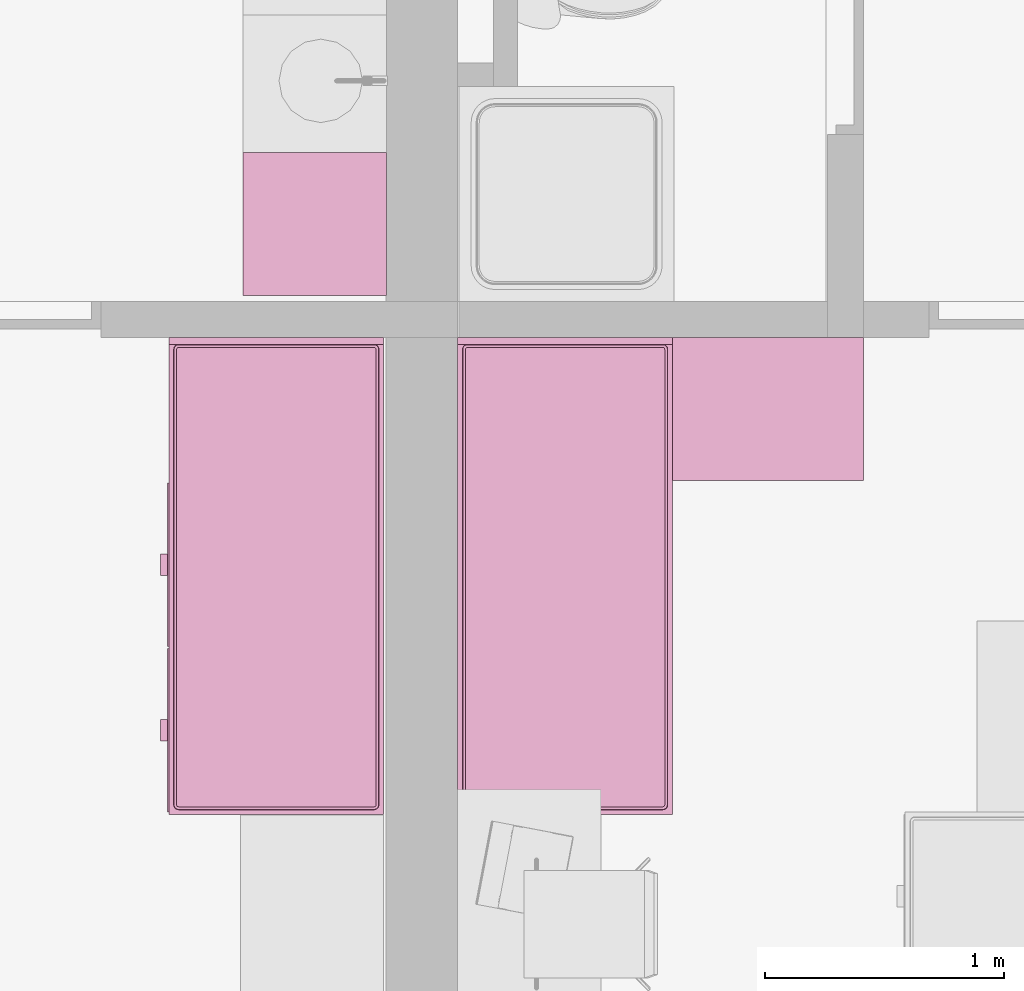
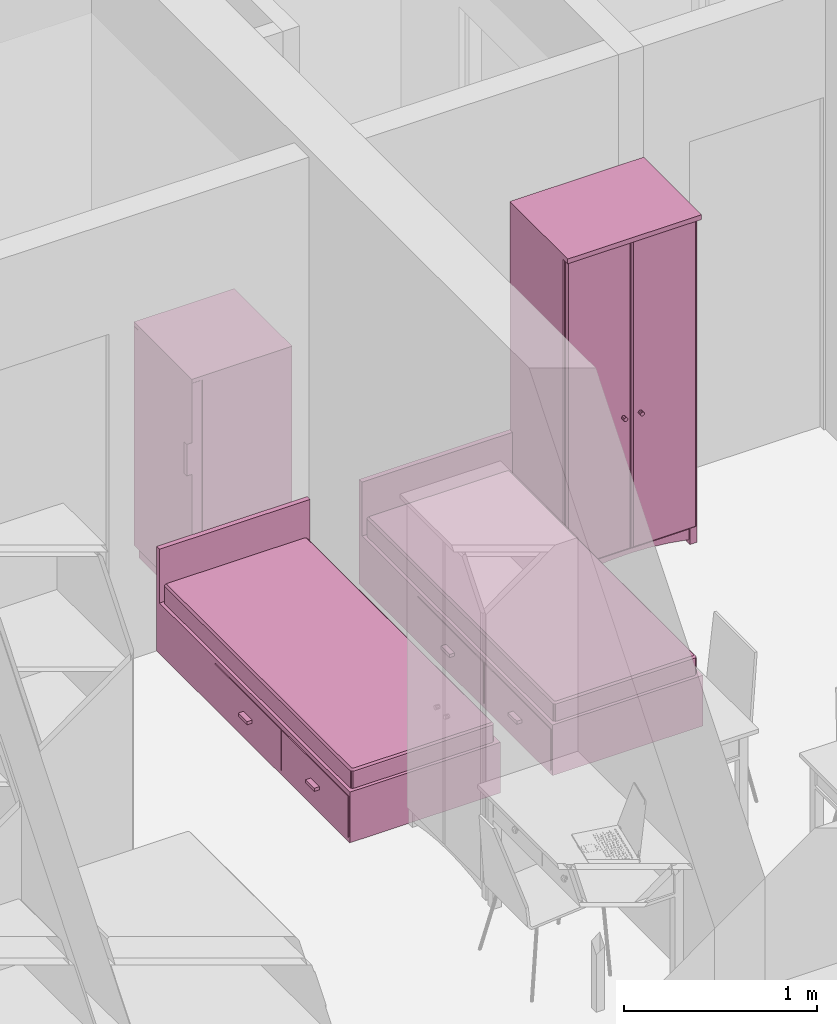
# One storey, part 118 of 165: 4 furnishings.
"""IFC2X3 building model written with IfcOpenShell, lengths in millimetres."""

from ifc_helpers import new_model, entity, si_unit, converted_unit, money_unit, direction, frame, origin_with_axes, place, context, subcontext, project, spatial, open_shell, faceted_brep, surface_model, source, transform, mapped, material, material_list, type_object, element, save


model = new_model("IFC2X3")

# Units and contexts
model_context = context("Model", 3, precision=1e-05, world=origin_with_axes(), true_north=direction((0.0, 1.0)))
body_context = subcontext(model_context, "Body", "Model", "MODEL_VIEW")
ifc_project = project(units=[si_unit("LENGTHUNIT", "METRE", prefix="MILLI"), si_unit("AREAUNIT", "SQUARE_METRE"), si_unit("VOLUMEUNIT", "CUBIC_METRE"), converted_unit("PLANEANGLEUNIT", "DEGREE", entity("IfcPlaneAngleMeasure", 0.0174532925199), si_unit("PLANEANGLEUNIT", "RADIAN"), dimensions=[0, 0, 0, 0, 0, 0, 0]), si_unit("SOLIDANGLEUNIT", "STERADIAN"), money_unit("USD"), converted_unit("TIMEUNIT", "Year", entity("IfcTimeMeasure", 31556926.0), si_unit("TIMEUNIT", "SECOND"), dimensions=[0, 0, 0, 0, 0, 0, 0]), si_unit("MASSUNIT", "GRAM"), si_unit("THERMODYNAMICTEMPERATUREUNIT", "DEGREE_CELSIUS"), si_unit("LUMINOUSINTENSITYUNIT", "LUMEN")], contexts=[model_context])

# Site, building, storey
site_placement = place(None, origin_with_axes())
site = spatial("IfcSite", under=ifc_project, at=site_placement, Name="Site", CompositionType="ELEMENT")
building_placement = place(site_placement, origin_with_axes())
building = spatial("IfcBuilding", under=site, at=building_placement, Name="Building", CompositionType="ELEMENT")
storey_placement = place(building_placement, frame((0.0, 0.0, 6300.0), z_axis=(0.0, 0.0, 1.0), x_axis=(1.0, 0.0, 0.0)))
storey = spatial("IfcBuildingStorey", under=building, at=storey_placement, Name="4KORRUS", CompositionType="ELEMENT", Elevation=6300.0)

# Furnishings
ifc_material = material(Name="Background")
ifc_material_list = material_list([ifc_material])
furnishing_element_type_1 = type_object("IfcFurnishingElementType", Name="Cupboard 19")
shared_shape_1 = source(origin_with_axes(), body_context, "Body", "Brep", [
    faceted_brep([(-780.0, 600.0, 120.0), (-780.0, 580.0, 120.0), (-780.0, 580.0, 2050.0), (-780.0, 600.0, 2050.0), (-20.0, 600.0, 120.0), (-20.0, 580.0, 120.0), (-20.0, 580.0, 2050.0), (-20.0, 600.0, 2050.0)], [[[0, 1, 2, 3]], [[0, 4, 5, 1]], [[1, 5, 6, 2]], [[3, 2, 6, 7]], [[4, 0, 3, 7]], [[5, 4, 7, 6]]]),
    faceted_brep([(0.0, 50.0, 100.0), (-20.0, 50.0, 100.0), (-20.0, 600.0, 100.0), (0.0, 600.0, 100.0), (0.0, 50.0, 2070.0), (-20.0, 50.0, 2070.0), (-20.0, 600.0, 2070.0), (0.0, 600.0, 2070.0)], [[[0, 1, 2, 3]], [[1, 0, 4, 5]], [[2, 1, 5, 6]], [[3, 2, 6, 7]], [[0, 3, 7, 4]], [[5, 4, 7, 6]]]),
    faceted_brep([(-780.0, 50.0, 100.0), (-800.0, 50.0, 100.0), (-800.0, 600.0, 100.0), (-780.0, 600.0, 100.0), (-780.0, 50.0, 2070.0), (-800.0, 50.0, 2070.0), (-800.0, 600.0, 2070.0), (-780.0, 600.0, 2070.0)], [[[0, 1, 2, 3]], [[1, 0, 4, 5]], [[2, 1, 5, 6]], [[3, 2, 6, 7]], [[0, 3, 7, 4]], [[5, 4, 7, 6]]]),
    faceted_brep([(-20.0, 50.0, 100.0), (-780.0, 50.0, 100.0), (-780.0, 600.0, 100.0), (-20.0, 600.0, 100.0), (-20.0, 50.0, 120.0), (-780.0, 50.0, 120.0), (-780.0, 600.0, 120.0), (-20.0, 600.0, 120.0)], [[[0, 1, 2, 3]], [[1, 0, 4, 5]], [[2, 1, 5, 6]], [[3, 2, 6, 7]], [[0, 3, 7, 4]], [[5, 4, 7, 6]]]),
    faceted_brep([(-20.0, 50.0, 2050.0), (-780.0, 50.0, 2050.0), (-780.0, 600.0, 2050.0), (-20.0, 600.0, 2050.0), (-20.0, 50.0, 2070.0), (-780.0, 50.0, 2070.0), (-780.0, 600.0, 2070.0), (-20.0, 600.0, 2070.0)], [[[0, 1, 2, 3]], [[1, 0, 4, 5]], [[2, 1, 5, 6]], [[3, 2, 6, 7]], [[0, 3, 7, 4]], [[5, 4, 7, 6]]]),
    faceted_brep([(0.0, 600.0, 2070.0), (0.0, 600.0, 2100.0), (0.0, 0.0, 2100.0), (0.0, 0.0, 2070.0), (-800.0, 600.0, 2070.0), (-800.0, 600.0, 2100.0), (-800.0, 0.0, 2100.0), (-800.0, 0.0, 2070.0)], [[[0, 1, 2, 3]], [[4, 5, 1, 0]], [[1, 5, 6, 2]], [[3, 2, 6, 7]], [[0, 3, 7, 4]], [[7, 6, 5, 4]]]),
    faceted_brep([(-760.0, 590.0, 25.0), (-640.962, 590.0, 45.8), (-640.962, 570.0, 45.8), (-760.0, 570.0, 25.0), (-760.0, 590.0, 100.0), (-40.0, 590.0, 100.0), (-40.0, 590.0, 25.0), (-159.038, 590.0, 45.8), (-279.23, 590.0, 58.32), (-400.0, 590.0, 62.5), (-520.77, 590.0, 58.32), (-520.77, 570.0, 58.32), (-400.0, 570.0, 62.5), (-279.23, 570.0, 58.32), (-159.038, 570.0, 45.8), (-40.0, 570.0, 25.0), (-40.0, 570.0, 100.0), (-760.0, 570.0, 100.0)], [[[0, 1, 2, 3]], [[0, 4, 5, 6, 7, 8, 9, 10, 1]], [[1, 10, 11, 2]], [[3, 2, 11, 12, 13, 14, 15, 16, 17]], [[4, 0, 3, 17]], [[5, 4, 17, 16]], [[6, 5, 16, 15]], [[7, 6, 15, 14]], [[8, 7, 14, 13]], [[9, 8, 13, 12]], [[10, 9, 12, 11]]]),
    faceted_brep([(-760.0, 80.0, 25.0), (-640.962, 80.0, 45.8), (-640.962, 60.0, 45.8), (-760.0, 60.0, 25.0), (-760.0, 80.0, 100.0), (-40.0, 80.0, 100.0), (-40.0, 80.0, 25.0), (-159.038, 80.0, 45.8), (-279.23, 80.0, 58.32), (-400.0, 80.0, 62.5), (-520.77, 80.0, 58.32), (-520.77, 60.0, 58.32), (-400.0, 60.0, 62.5), (-279.23, 60.0, 58.32), (-159.038, 60.0, 45.8), (-40.0, 60.0, 25.0), (-40.0, 60.0, 100.0), (-760.0, 60.0, 100.0)], [[[0, 1, 2, 3]], [[0, 4, 5, 6, 7, 8, 9, 10, 1]], [[1, 10, 11, 2]], [[3, 2, 11, 12, 13, 14, 15, 16, 17]], [[4, 0, 3, 17]], [[5, 4, 17, 16]], [[6, 5, 16, 15]], [[7, 6, 15, 14]], [[8, 7, 14, 13]], [[9, 8, 13, 12]], [[10, 9, 12, 11]]]),
    faceted_brep([(-790.0, 90.0, 25.0), (-790.0, 141.266, 38.072), (-770.0, 141.266, 38.072), (-770.0, 90.0, 25.0), (-790.0, 90.0, 100.0), (-790.0, 560.0, 100.0), (-790.0, 560.0, 25.0), (-790.0, 508.734, 38.072), (-790.0, 456.752, 47.92), (-790.0, 404.257, 54.508), (-790.0, 351.453, 57.808), (-790.0, 298.547, 57.808), (-790.0, 245.743, 54.508), (-790.0, 193.248, 47.92), (-770.0, 193.248, 47.92), (-770.0, 245.743, 54.508), (-770.0, 298.547, 57.808), (-770.0, 351.453, 57.808), (-770.0, 404.257, 54.508), (-770.0, 456.752, 47.92), (-770.0, 508.734, 38.072), (-770.0, 560.0, 25.0), (-770.0, 560.0, 100.0), (-770.0, 90.0, 100.0)], [[[0, 1, 2, 3]], [[0, 4, 5, 6, 7, 8, 9, 10, 11, 12, 13, 1]], [[1, 13, 14, 2]], [[3, 2, 14, 15, 16, 17, 18, 19, 20, 21, 22, 23]], [[4, 0, 3, 23]], [[5, 4, 23, 22]], [[6, 5, 22, 21]], [[7, 6, 21, 20]], [[8, 7, 20, 19]], [[9, 8, 19, 18]], [[10, 9, 18, 17]], [[11, 10, 17, 16]], [[12, 11, 16, 15]], [[13, 12, 15, 14]]]),
    faceted_brep([(-30.0, 90.0, 25.0), (-30.0, 141.266, 38.072), (-10.0, 141.266, 38.072), (-10.0, 90.0, 25.0), (-30.0, 90.0, 100.0), (-30.0, 560.0, 100.0), (-30.0, 560.0, 25.0), (-30.0, 508.734, 38.072), (-30.0, 456.752, 47.92), (-30.0, 404.257, 54.508), (-30.0, 351.453, 57.808), (-30.0, 298.547, 57.808), (-30.0, 245.743, 54.508), (-30.0, 193.248, 47.92), (-10.0, 193.248, 47.92), (-10.0, 245.743, 54.508), (-10.0, 298.547, 57.808), (-10.0, 351.453, 57.808), (-10.0, 404.257, 54.508), (-10.0, 456.752, 47.92), (-10.0, 508.734, 38.072), (-10.0, 560.0, 25.0), (-10.0, 560.0, 100.0), (-10.0, 90.0, 100.0)], [[[0, 1, 2, 3]], [[0, 4, 5, 6, 7, 8, 9, 10, 11, 12, 13, 1]], [[1, 13, 14, 2]], [[3, 2, 14, 15, 16, 17, 18, 19, 20, 21, 22, 23]], [[4, 0, 3, 23]], [[5, 4, 23, 22]], [[6, 5, 22, 21]], [[7, 6, 21, 20]], [[8, 7, 20, 19]], [[9, 8, 19, 18]], [[10, 9, 18, 17]], [[11, 10, 17, 16]], [[12, 11, 16, 15]], [[13, 12, 15, 14]]]),
    faceted_brep([(-760.0, 560.0, 0.0), (-760.0, 600.0, 0.0), (-760.0, 600.0, 100.0), (-760.0, 560.0, 100.0), (-800.0, 560.0, 0.0), (-800.0, 600.0, 0.0), (-800.0, 600.0, 100.0), (-800.0, 560.0, 100.0)], [[[0, 1, 2, 3]], [[0, 4, 5, 1]], [[1, 5, 6, 2]], [[3, 2, 6, 7]], [[4, 0, 3, 7]], [[5, 4, 7, 6]]]),
    faceted_brep([(0.0, 560.0, 0.0), (0.0, 600.0, 0.0), (0.0, 600.0, 100.0), (0.0, 560.0, 100.0), (-40.0, 560.0, 0.0), (-40.0, 600.0, 0.0), (-40.0, 600.0, 100.0), (-40.0, 560.0, 100.0)], [[[0, 1, 2, 3]], [[0, 4, 5, 1]], [[1, 5, 6, 2]], [[3, 2, 6, 7]], [[4, 0, 3, 7]], [[5, 4, 7, 6]]]),
    faceted_brep([(-760.0, 50.0, 0.0), (-760.0, 90.0, 0.0), (-760.0, 90.0, 100.0), (-760.0, 50.0, 100.0), (-800.0, 50.0, 0.0), (-800.0, 90.0, 0.0), (-800.0, 90.0, 100.0), (-800.0, 50.0, 100.0)], [[[0, 1, 2, 3]], [[0, 4, 5, 1]], [[1, 5, 6, 2]], [[3, 2, 6, 7]], [[4, 0, 3, 7]], [[5, 4, 7, 6]]]),
    faceted_brep([(0.0, 50.0, 0.0), (0.0, 90.0, 0.0), (0.0, 90.0, 100.0), (0.0, 50.0, 100.0), (-40.0, 50.0, 0.0), (-40.0, 90.0, 0.0), (-40.0, 90.0, 100.0), (-40.0, 50.0, 100.0)], [[[0, 1, 2, 3]], [[0, 4, 5, 1]], [[1, 5, 6, 2]], [[3, 2, 6, 7]], [[4, 0, 3, 7]], [[5, 4, 7, 6]]]),
    faceted_brep([(-780.0, 580.0, 587.5), (-780.0, 50.0, 587.5), (-780.0, 50.0, 607.5), (-780.0, 580.0, 607.5), (-20.0, 580.0, 587.5), (-20.0, 50.0, 587.5), (-20.0, 50.0, 607.5), (-20.0, 580.0, 607.5)], [[[0, 1, 2, 3]], [[0, 4, 5, 1]], [[1, 5, 6, 2]], [[3, 2, 6, 7]], [[4, 0, 3, 7]], [[5, 4, 7, 6]]]),
    faceted_brep([(-780.0, 580.0, 1075.0), (-780.0, 50.0, 1075.0), (-780.0, 50.0, 1095.0), (-780.0, 580.0, 1095.0), (-20.0, 580.0, 1075.0), (-20.0, 50.0, 1075.0), (-20.0, 50.0, 1095.0), (-20.0, 580.0, 1095.0)], [[[0, 1, 2, 3]], [[0, 4, 5, 1]], [[1, 5, 6, 2]], [[3, 2, 6, 7]], [[4, 0, 3, 7]], [[5, 4, 7, 6]]]),
    faceted_brep([(-780.0, 580.0, 1562.5), (-780.0, 50.0, 1562.5), (-780.0, 50.0, 1582.5), (-780.0, 580.0, 1582.5), (-20.0, 580.0, 1562.5), (-20.0, 50.0, 1562.5), (-20.0, 50.0, 1582.5), (-20.0, 580.0, 1582.5)], [[[0, 1, 2, 3]], [[0, 4, 5, 1]], [[1, 5, 6, 2]], [[3, 2, 6, 7]], [[4, 0, 3, 7]], [[5, 4, 7, 6]]]),
    faceted_brep([(-789.5, 50.0, 110.5), (-789.5, 50.0, 2059.5), (-400.5, 50.0, 2059.5), (-400.5, 50.0, 110.5), (-789.5, 40.0, 110.5), (-789.5, 40.0, 2059.5), (-400.5, 40.0, 2059.5), (-400.5, 40.0, 110.5), (-779.5, 30.0, 120.5), (-779.5, 30.0, 2049.5), (-410.5, 30.0, 2049.5), (-410.5, 30.0, 120.5)], [[[0, 1, 2, 3]], [[1, 0, 4, 5]], [[2, 1, 5, 6]], [[3, 2, 6, 7]], [[0, 3, 7, 4]], [[5, 4, 8, 9]], [[6, 5, 9, 10]], [[7, 6, 10, 11]], [[4, 7, 11, 8]], [[10, 9, 8, 11]]]),
    faceted_brep([(-399.5, 50.0, 110.5), (-399.5, 50.0, 2059.5), (-10.5, 50.0, 2059.5), (-10.5, 50.0, 110.5), (-399.5, 40.0, 110.5), (-399.5, 40.0, 2059.5), (-10.5, 40.0, 2059.5), (-10.5, 40.0, 110.5), (-389.5, 30.0, 120.5), (-389.5, 30.0, 2049.5), (-20.5, 30.0, 2049.5), (-20.5, 30.0, 120.5)], [[[0, 1, 2, 3]], [[1, 0, 4, 5]], [[2, 1, 5, 6]], [[3, 2, 6, 7]], [[0, 3, 7, 4]], [[5, 4, 8, 9]], [[6, 5, 9, 10]], [[7, 6, 10, 11]], [[4, 7, 11, 8]], [[10, 9, 8, 11]]]),
    faceted_brep([(-339.608, 30.0, 954.0), (-344.0, 30.0, 949.608), (-350.0, 30.0, 948.0), (-356.0, 30.0, 949.608), (-360.392, 30.0, 954.0), (-362.0, 30.0, 960.0), (-360.392, 30.0, 966.0), (-356.0, 30.0, 970.392), (-350.0, 30.0, 972.0), (-344.0, 30.0, 970.392), (-339.608, 30.0, 966.0), (-338.0, 30.0, 960.0), (-339.608, 5.0, 954.0), (-344.0, 5.0, 949.608), (-350.0, 5.0, 948.0), (-356.0, 5.0, 949.608), (-360.392, 5.0, 954.0), (-362.0, 5.0, 960.0), (-360.392, 5.0, 966.0), (-356.0, 5.0, 970.392), (-350.0, 5.0, 972.0), (-344.0, 5.0, 970.392), (-339.608, 5.0, 966.0), (-338.0, 5.0, 960.0)], [[[0, 1, 2, 3, 4, 5, 6, 7, 8, 9, 10, 11]], [[1, 0, 12, 13]], [[2, 1, 13, 14]], [[3, 2, 14, 15]], [[4, 3, 15, 16]], [[5, 4, 16, 17]], [[6, 5, 17, 18]], [[7, 6, 18, 19]], [[8, 7, 19, 20]], [[9, 8, 20, 21]], [[10, 9, 21, 22]], [[11, 10, 22, 23]], [[0, 11, 23, 12]], [[12, 23, 22, 21, 20, 19, 18, 17, 16, 15, 14, 13]]]),
    faceted_brep([(-460.392, 30.0, 954.0), (-462.0, 30.0, 960.0), (-460.392, 30.0, 966.0), (-456.0, 30.0, 970.392), (-450.0, 30.0, 972.0), (-444.0, 30.0, 970.392), (-439.608, 30.0, 966.0), (-438.0, 30.0, 960.0), (-439.608, 30.0, 954.0), (-444.0, 30.0, 949.608), (-450.0, 30.0, 948.0), (-456.0, 30.0, 949.608), (-460.392, 5.0, 954.0), (-462.0, 5.0, 960.0), (-460.392, 5.0, 966.0), (-456.0, 5.0, 970.392), (-450.0, 5.0, 972.0), (-444.0, 5.0, 970.392), (-439.608, 5.0, 966.0), (-438.0, 5.0, 960.0), (-439.608, 5.0, 954.0), (-444.0, 5.0, 949.608), (-450.0, 5.0, 948.0), (-456.0, 5.0, 949.608)], [[[0, 1, 2, 3, 4, 5, 6, 7, 8, 9, 10, 11]], [[0, 12, 13, 1]], [[1, 13, 14, 2]], [[2, 14, 15, 3]], [[3, 15, 16, 4]], [[4, 16, 17, 5]], [[5, 17, 18, 6]], [[6, 18, 19, 7]], [[7, 19, 20, 8]], [[8, 20, 21, 9]], [[9, 21, 22, 10]], [[10, 22, 23, 11]], [[11, 23, 12, 0]], [[12, 23, 22, 21, 20, 19, 18, 17, 16, 15, 14, 13]]]),
])
furnishing_1_placement = place(storey_placement, frame((1709.70329669, -16039.2398994, 0.0), z_axis=(0.0, 0.0, 1.0), x_axis=(1.0, 0.0, 0.0)))
element("IfcFurnishingElement", 1, at=furnishing_1_placement, inside=storey, type_object=furnishing_element_type_1, material=ifc_material_list, Name="FU - 014", context=body_context, shape_type="MappedRepresentation", body=[
    mapped(shared_shape_1, transform((0.0, 0.0, 0.0))),
])
furnishing_element_type_2 = type_object("IfcFurnishingElementType", Name="Bed 19")
shared_shape_2 = source(origin_with_axes(), body_context, "Body", "Brep", [
    faceted_brep([(-900.0, 1970.0, 0.0), (-900.0, 2000.0, 0.0), (0.0, 2000.0, 0.0), (0.0, 1970.0, 0.0), (-900.0, 1970.0, 660.0), (-900.0, 2000.0, 660.0), (0.0, 2000.0, 660.0), (0.0, 1970.0, 660.0)], [[[0, 1, 2, 3]], [[0, 4, 5, 1]], [[1, 5, 6, 2]], [[2, 6, 7, 3]], [[3, 7, 4, 0]], [[7, 6, 5, 4]]]),
    faceted_brep([(-900.0, 0.0, 0.0), (-900.0, 1970.0, 0.0), (0.0, 1970.0, 0.0), (0.0, 0.0, 0.0), (-900.0, 0.0, 320.0), (-900.0, 1970.0, 320.0), (0.0, 1970.0, 320.0), (0.0, 0.0, 320.0)], [[[0, 1, 2, 3]], [[0, 4, 5, 1]], [[1, 5, 6, 2]], [[2, 6, 7, 3]], [[3, 7, 4, 0]], [[7, 6, 5, 4]]]),
    faceted_brep([(-905.0, 10.0, 30.0), (-905.0, 695.0, 30.0), (-900.0, 695.0, 30.0), (-900.0, 10.0, 30.0), (-905.0, 10.0, 290.0), (-905.0, 695.0, 290.0), (-900.0, 695.0, 290.0), (-900.0, 10.0, 290.0)], [[[0, 1, 2, 3]], [[0, 4, 5, 1]], [[1, 5, 6, 2]], [[2, 6, 7, 3]], [[3, 7, 4, 0]], [[7, 6, 5, 4]]]),
    faceted_brep([(-935.0, 307.5, 150.0), (-935.0, 397.5, 150.0), (-905.0, 397.5, 150.0), (-905.0, 307.5, 150.0), (-935.0, 307.5, 170.0), (-935.0, 397.5, 170.0), (-905.0, 397.5, 170.0), (-905.0, 307.5, 170.0)], [[[0, 1, 2, 3]], [[0, 4, 5, 1]], [[1, 5, 6, 2]], [[2, 6, 7, 3]], [[3, 7, 4, 0]], [[7, 6, 5, 4]]]),
    faceted_brep([(-905.0, 705.0, 30.0), (-905.0, 1390.0, 30.0), (-900.0, 1390.0, 30.0), (-900.0, 705.0, 30.0), (-905.0, 705.0, 290.0), (-905.0, 1390.0, 290.0), (-900.0, 1390.0, 290.0), (-900.0, 705.0, 290.0)], [[[0, 1, 2, 3]], [[0, 4, 5, 1]], [[1, 5, 6, 2]], [[2, 6, 7, 3]], [[3, 7, 4, 0]], [[7, 6, 5, 4]]]),
    faceted_brep([(-935.0, 1002.5, 150.0), (-935.0, 1092.5, 150.0), (-905.0, 1092.5, 150.0), (-905.0, 1002.5, 150.0), (-935.0, 1002.5, 170.0), (-935.0, 1092.5, 170.0), (-905.0, 1092.5, 170.0), (-905.0, 1002.5, 170.0)], [[[0, 1, 2, 3]], [[0, 4, 5, 1]], [[1, 5, 6, 2]], [[2, 6, 7, 3]], [[3, 7, 4, 0]], [[7, 6, 5, 4]]]),
    faceted_brep([(-20.0, 40.0, 350.0), (-21.522, 32.346, 350.0), (-25.858, 25.858, 350.0), (-32.346, 21.522, 350.0), (-40.0, 20.0, 350.0), (-860.0, 20.0, 350.0), (-867.654, 21.522, 350.0), (-874.142, 25.858, 350.0), (-878.478, 32.346, 350.0), (-880.0, 40.0, 350.0), (-880.0, 1950.0, 350.0), (-878.478, 1957.654, 350.0), (-874.142, 1964.142, 350.0), (-867.654, 1968.478, 350.0), (-860.0, 1970.0, 350.0), (-40.0, 1970.0, 350.0), (-32.346, 1968.478, 350.0), (-25.858, 1964.142, 350.0), (-21.522, 1957.654, 350.0), (-20.0, 1950.0, 350.0), (-20.0, 40.0, 420.0), (-21.522, 32.346, 420.0), (-25.858, 25.858, 420.0), (-32.346, 21.522, 420.0), (-40.0, 20.0, 420.0), (-860.0, 20.0, 420.0), (-867.654, 21.522, 420.0), (-874.142, 25.858, 420.0), (-878.478, 32.346, 420.0), (-880.0, 40.0, 420.0), (-880.0, 1950.0, 420.0), (-878.478, 1957.654, 420.0), (-874.142, 1964.142, 420.0), (-867.654, 1968.478, 420.0), (-860.0, 1970.0, 420.0), (-40.0, 1970.0, 420.0), (-32.346, 1968.478, 420.0), (-25.858, 1964.142, 420.0), (-21.522, 1957.654, 420.0), (-20.0, 1950.0, 420.0), (-21.522, 40.15, 427.654), (-22.956, 32.94, 427.654), (-26.955, 26.955, 427.654), (-32.94, 22.956, 427.654), (-40.15, 21.522, 427.654), (-859.85, 21.522, 427.654), (-867.06, 22.956, 427.654), (-873.045, 26.955, 427.654), (-877.044, 32.94, 427.654), (-878.478, 40.15, 427.654), (-878.478, 1949.85, 427.654), (-877.044, 1957.06, 427.654), (-873.045, 1963.045, 427.654), (-867.06, 1967.044, 427.654), (-859.85, 1968.478, 427.654), (-40.15, 1968.478, 427.654), (-32.94, 1967.044, 427.654), (-26.955, 1963.045, 427.654), (-22.956, 1957.06, 427.654), (-21.522, 1949.85, 427.654), (-32.346, 41.216, 438.478), (-33.152, 37.164, 438.478), (-34.759, 34.759, 438.478), (-37.164, 33.152, 438.478), (-41.216, 32.346, 438.478), (-858.784, 32.346, 438.478), (-862.836, 33.152, 438.478), (-865.241, 34.759, 438.478), (-866.848, 37.164, 438.478), (-867.654, 41.216, 438.478), (-867.654, 1948.784, 438.478), (-866.848, 1952.836, 438.478), (-865.241, 1955.241, 438.478), (-862.836, 1956.848, 438.478), (-858.784, 1957.654, 438.478), (-41.216, 1957.654, 438.478), (-37.164, 1956.848, 438.478), (-34.759, 1955.241, 438.478), (-33.152, 1952.836, 438.478), (-32.346, 1948.784, 438.478), (-40.0, 41.97, 440.0), (-40.327, 40.327, 440.0), (-40.0, 40.0, 439.924), (-41.97, 40.0, 440.0), (-858.03, 40.0, 440.0), (-859.673, 40.327, 440.0), (-860.0, 40.0, 439.924), (-860.0, 41.97, 440.0), (-860.0, 1948.03, 440.0), (-859.673, 1949.673, 440.0), (-860.0, 1950.0, 439.924), (-858.03, 1950.0, 440.0), (-41.97, 1950.0, 440.0), (-40.327, 1949.673, 440.0), (-40.0, 1950.0, 439.924), (-40.0, 1948.03, 440.0)], [[[0, 1, 2, 3, 4, 5, 6, 7, 8, 9, 10, 11, 12, 13, 14, 15, 16, 17, 18, 19]], [[0, 20, 21, 1]], [[1, 21, 22, 2]], [[2, 22, 23, 3]], [[3, 23, 24, 4]], [[4, 24, 25, 5]], [[5, 25, 26, 6]], [[6, 26, 27, 7]], [[7, 27, 28, 8]], [[8, 28, 29, 9]], [[9, 29, 30, 10]], [[10, 30, 31, 11]], [[11, 31, 32, 12]], [[12, 32, 33, 13]], [[13, 33, 34, 14]], [[14, 34, 35, 15]], [[15, 35, 36, 16]], [[16, 36, 37, 17]], [[17, 37, 38, 18]], [[18, 38, 39, 19]], [[19, 39, 20, 0]], [[20, 40, 41, 21]], [[21, 41, 42, 22]], [[22, 42, 43, 23]], [[23, 43, 44, 24]], [[24, 44, 45, 25]], [[25, 45, 46, 26]], [[26, 46, 47, 27]], [[27, 47, 48, 28]], [[28, 48, 49, 29]], [[29, 49, 50, 30]], [[30, 50, 51, 31]], [[31, 51, 52, 32]], [[32, 52, 53, 33]], [[33, 53, 54, 34]], [[34, 54, 55, 35]], [[35, 55, 56, 36]], [[36, 56, 57, 37]], [[37, 57, 58, 38]], [[38, 58, 59, 39]], [[39, 59, 40, 20]], [[40, 60, 61, 41]], [[41, 61, 62, 42]], [[42, 62, 63, 43]], [[43, 63, 64, 44]], [[44, 64, 65, 45]], [[45, 65, 66, 46]], [[46, 66, 67, 47]], [[47, 67, 68, 48]], [[48, 68, 69, 49]], [[49, 69, 70, 50]], [[50, 70, 71, 51]], [[51, 71, 72, 52]], [[52, 72, 73, 53]], [[53, 73, 74, 54]], [[54, 74, 75, 55]], [[55, 75, 76, 56]], [[56, 76, 77, 57]], [[57, 77, 78, 58]], [[58, 78, 79, 59]], [[59, 79, 60, 40]], [[60, 80, 81, 82, 61]], [[61, 82, 62]], [[62, 82, 63]], [[63, 82, 81, 83, 64]], [[64, 83, 84, 65]], [[65, 84, 85, 86, 66]], [[66, 86, 67]], [[67, 86, 68]], [[68, 86, 85, 87, 69]], [[69, 87, 88, 70]], [[70, 88, 89, 90, 71]], [[71, 90, 72]], [[72, 90, 73]], [[73, 90, 89, 91, 74]], [[74, 91, 92, 75]], [[75, 92, 93, 94, 76]], [[76, 94, 77]], [[77, 94, 78]], [[78, 94, 93, 95, 79]], [[79, 95, 80, 60]], [[95, 93, 92, 91, 89, 88, 87, 85, 84, 83, 81, 80]]]),
    faceted_brep([(-20.0, 40.0, 350.0), (-20.0, 1950.0, 350.0), (-21.522, 1957.654, 350.0), (-25.858, 1964.142, 350.0), (-32.346, 1968.478, 350.0), (-40.0, 1970.0, 350.0), (-860.0, 1970.0, 350.0), (-867.654, 1968.478, 350.0), (-874.142, 1964.142, 350.0), (-878.478, 1957.654, 350.0), (-880.0, 1950.0, 350.0), (-880.0, 40.0, 350.0), (-878.478, 32.346, 350.0), (-874.142, 25.858, 350.0), (-867.654, 21.522, 350.0), (-860.0, 20.0, 350.0), (-40.0, 20.0, 350.0), (-32.346, 21.522, 350.0), (-25.858, 25.858, 350.0), (-21.522, 32.346, 350.0), (-20.0, 40.0, 320.0), (-20.0, 1950.0, 320.0), (-21.522, 1957.654, 320.0), (-25.858, 1964.142, 320.0), (-32.346, 1968.478, 320.0), (-40.0, 1970.0, 320.0), (-860.0, 1970.0, 320.0), (-867.654, 1968.478, 320.0), (-874.142, 1964.142, 320.0), (-878.478, 1957.654, 320.0), (-880.0, 1950.0, 320.0), (-880.0, 40.0, 320.0), (-878.478, 32.346, 320.0), (-874.142, 25.858, 320.0), (-867.654, 21.522, 320.0), (-860.0, 20.0, 320.0), (-40.0, 20.0, 320.0), (-32.346, 21.522, 320.0), (-25.858, 25.858, 320.0), (-21.522, 32.346, 320.0)], [[[0, 1, 2, 3, 4, 5, 6, 7, 8, 9, 10, 11, 12, 13, 14, 15, 16, 17, 18, 19]], [[1, 0, 20, 21]], [[2, 1, 21, 22]], [[3, 2, 22, 23]], [[4, 3, 23, 24]], [[5, 4, 24, 25]], [[6, 5, 25, 26]], [[7, 6, 26, 27]], [[8, 7, 27, 28]], [[9, 8, 28, 29]], [[10, 9, 29, 30]], [[11, 10, 30, 31]], [[12, 11, 31, 32]], [[13, 12, 32, 33]], [[14, 13, 33, 34]], [[15, 14, 34, 35]], [[16, 15, 35, 36]], [[17, 16, 36, 37]], [[18, 17, 37, 38]], [[19, 18, 38, 39]], [[0, 19, 39, 20]], [[20, 39, 38, 37, 36, 35, 34, 33, 32, 31, 30, 29, 28, 27, 26, 25, 24, 23, 22, 21]]]),
])
for number, where, z_axis, x_axis, name in (
    (2, (909.703296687, -17439.2398994, 0.0), (0.0, 0.0, 1.0), (1.0, 0.0, 0.0), "FU - 013"),
    (3, (-300.43715218, -17439.2398994, 0.0), (0.0, 0.0, 1.0), (1.0, 0.0, 0.0), "FU - 013"),
):
    element("IfcFurnishingElement", number, at=place(storey_placement, frame(where, z_axis=z_axis, x_axis=x_axis)), inside=storey, type_object=furnishing_element_type_2, material=ifc_material_list, Name=name, context=body_context, shape_type="MappedRepresentation", body=[
        mapped(shared_shape_2, transform((0.0, 0.0, 0.0))),
    ])
furnishing_element_type_3 = type_object("IfcFurnishingElementType", Name="Refrigerator 19")
shared_shape_3 = source(origin_with_axes(), body_context, "Body", "SurfaceModel", [
    faceted_brep([(0.0, 0.0, 1475.0), (600.0, 0.0, 1475.0), (600.0, 0.0, 1500.0), (0.0, 0.0, 1500.0), (0.0, 600.0, 1475.0), (600.0, 600.0, 1475.0), (600.0, 600.0, 1500.0), (0.0, 600.0, 1500.0)], [[[0, 1, 2, 3]], [[0, 4, 5, 1]], [[1, 5, 6, 2]], [[3, 2, 6, 7]], [[4, 0, 3, 7]], [[5, 4, 7, 6]]]),
    faceted_brep([(0.0, 65.0, 0.0), (600.0, 65.0, 0.0), (600.0, 65.0, 1475.0), (0.0, 65.0, 1475.0), (0.0, 600.0, 0.0), (600.0, 600.0, 0.0), (600.0, 600.0, 1475.0), (0.0, 600.0, 1475.0)], [[[0, 1, 2, 3]], [[0, 4, 5, 1]], [[1, 5, 6, 2]], [[3, 2, 6, 7]], [[4, 0, 3, 7]], [[5, 4, 7, 6]]]),
    faceted_brep([(0.0, 30.0, 0.0), (600.0, 30.0, 0.0), (600.0, 30.0, 90.0), (0.0, 30.0, 90.0), (0.0, 60.0, 0.0), (600.0, 60.0, 0.0), (600.0, 60.0, 90.0), (0.0, 60.0, 90.0)], [[[0, 1, 2, 3]], [[0, 4, 5, 1]], [[1, 5, 6, 2]], [[3, 2, 6, 7]], [[4, 0, 3, 7]], [[5, 4, 7, 6]]]),
    faceted_brep([(0.0, 60.0, 90.0), (600.0, 60.0, 90.0), (600.0, 0.0, 90.0), (0.0, 0.0, 90.0), (0.0, 60.0, 1474.5), (600.0, 60.0, 1474.5), (600.0, 0.0, 1474.5), (0.0, 0.0, 1474.5)], [[[0, 1, 2, 3]], [[0, 4, 5, 1]], [[1, 5, 6, 2]], [[3, 2, 6, 7]], [[4, 0, 3, 7]], [[5, 4, 7, 6]]]),
    surface_model("IfcShellBasedSurfaceModel", [(600.0, -30.0, 900.0), (600.0, -30.0, 1100.0), (600.0, 0.0, 1100.0), (600.0, 0.0, 900.0)], [open_shell([[[0, 1, 2, 3]]])]),
    surface_model("IfcShellBasedSurfaceModel", [(600.0, -30.0, 900.0), (600.0, -30.0, 1100.0), (570.0, -30.0, 1100.0), (570.0, -30.0, 900.0)], [open_shell([[[0, 1, 2, 3]]])]),
])
furnishing_2_placement = place(storey_placement, frame((-889.296703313, -14664.7705299, 0.0), z_axis=(0.0, 0.0, 1.0), x_axis=(0.0, -1.0, 0.0)))
element("IfcFurnishingElement", 4, at=furnishing_2_placement, inside=storey, type_object=furnishing_element_type_3, material=ifc_material_list, Name="FU - 007", context=body_context, shape_type="MappedRepresentation", body=[
    mapped(shared_shape_3, transform((0.0, 0.0, 0.0))),
])

save(model, "model.ifc")
